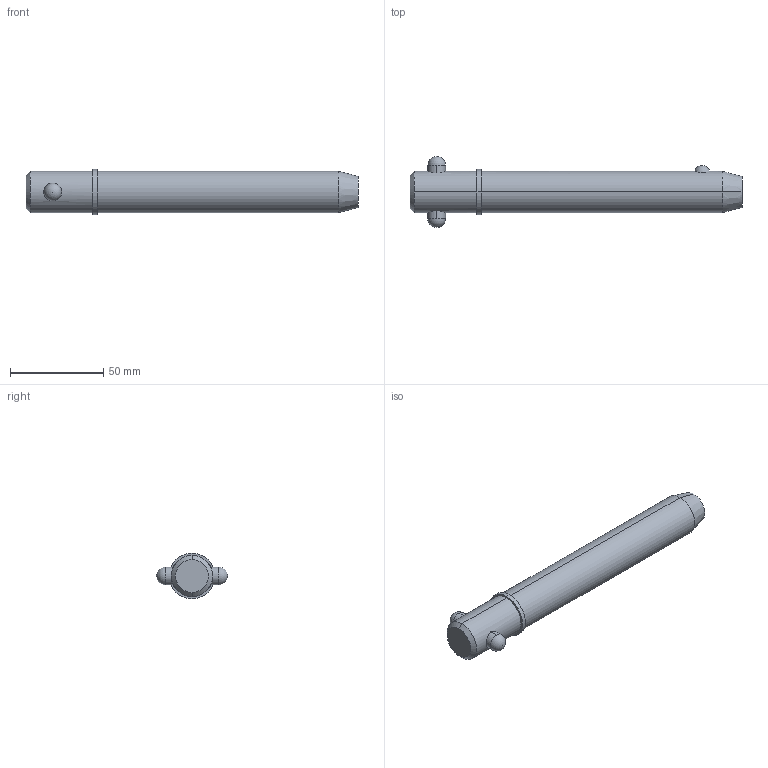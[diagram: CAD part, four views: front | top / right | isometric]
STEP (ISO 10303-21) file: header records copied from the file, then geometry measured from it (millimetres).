
FILE_DESCRIPTION (( 'STEP AP203' ), '1' );
FILE_NAME ('33018.W8845.step', '2024-11-19T17:22:44', ( '' ), ( '' ), 'SwSTEP 2.0', 'SolidWorks 2019', '' );
FILE_SCHEMA (( 'CONFIG_CONTROL_DESIGN' ));
Length unit declared in the file: millimetre
Products named in the file (3): 33018.W8845; Part1_33018.W8845; Part2_33018.W8845
Assembly tree (2 placements, depth 2):
  33018.W8845
    Part1_33018.W8845
    Part2_33018.W8845
Bounding box: 177.8 x 38.1 x 24.45 mm (x, y, z)
Volume: 69150.5 mm3; surface area: 14700.5 mm2
Topology: 2 solids, 2 shells, 22 faces, 47 edges, 30 vertices
Faces by surface type: cylinder 10, sphere 4, cone 4, plane 4
Entity records: 1057 total; most frequent: CARTESIAN_POINT 300, DIRECTION 110, ORIENTED_EDGE 82, AXIS2_PLACEMENT_3D 48, EDGE_CURVE 41, EDGE_LOOP 27, VERTEX_POINT 26, PERSON_AND_ORGANIZATION 26
